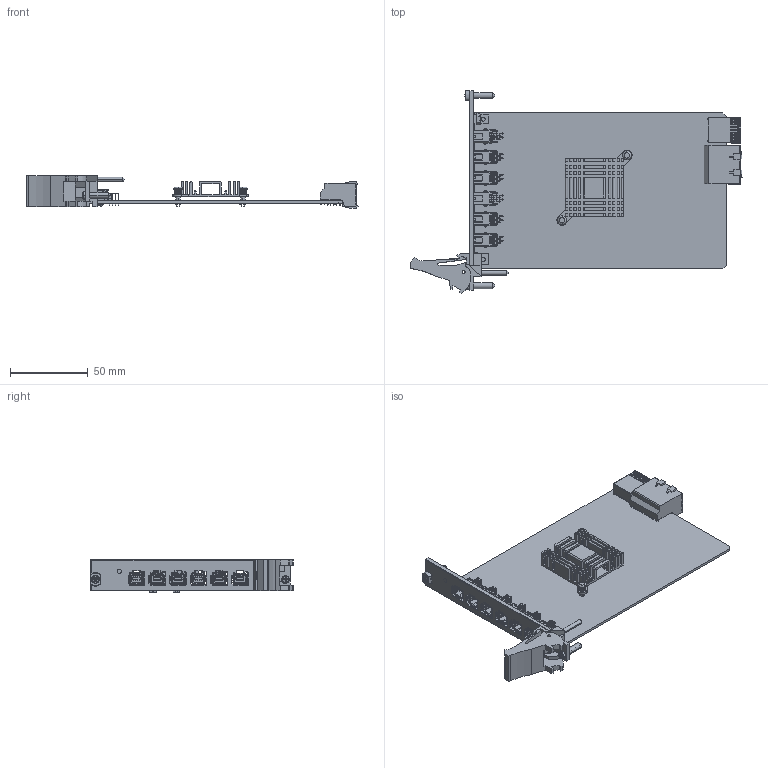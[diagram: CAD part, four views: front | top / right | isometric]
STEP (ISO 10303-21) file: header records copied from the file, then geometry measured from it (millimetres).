
FILE_DESCRIPTION((''),'2;1');
FILE_NAME('CU_PXIE-8510-6CH','2017-08-15T',('huydo'),(''),'CREO PARAMETRIC BY PTC INC, 2015380','CREO PARAMETRIC BY PTC INC, 2015380','');
FILE_SCHEMA(('CONFIG_CONTROL_DESIGN'));
Products named in the file (1): CU_PXIE-8510-6CH
Bounding box: 213.82 x 130.5 x 20.78 mm (x, y, z)
Volume: 56625.3 mm3; surface area: 66671.7 mm2
Topology: 3 solids, 7 shells, 7028 faces, 20249 edges, 13348 vertices
Faces by surface type: plane 5295, cylinder 1667, cone 34, bspline 16, torus 8, sphere 8
Entity records: 241964 total; most frequent: CARTESIAN_POINT 56591, ORIENTED_EDGE 40458, DIRECTION 35617, EDGE_CURVE 20229, VECTOR 15355, LINE 15355, VERTEX_POINT 13348, AXIS2_PLACEMENT_3D 10131
